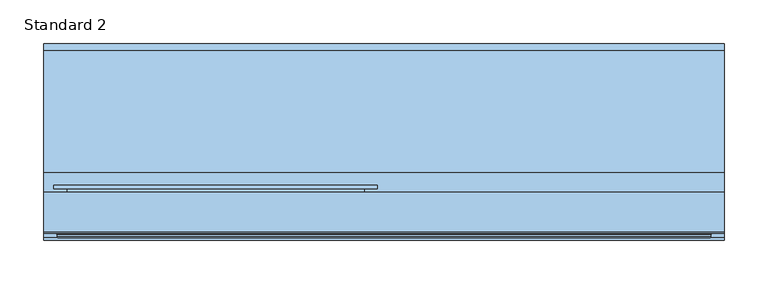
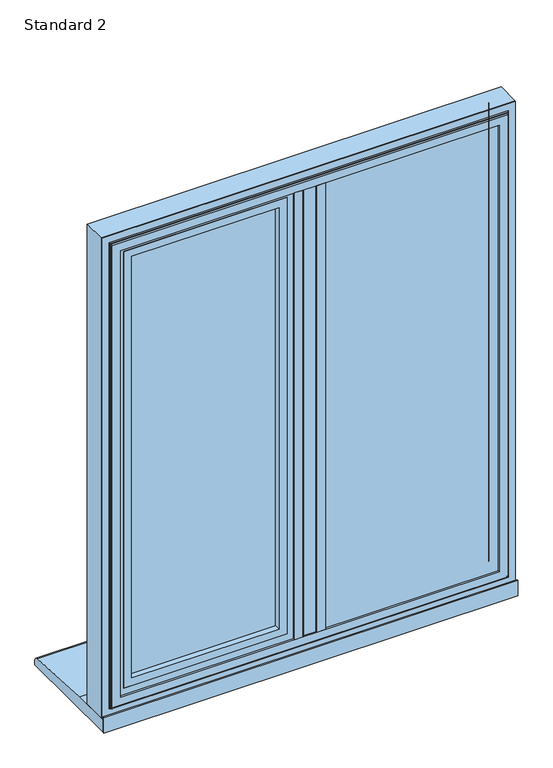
"""IFC4 building model written with IfcOpenShell, lengths in millimetres: window geometry, SMARTS_AlithermHeritage : Standard 2."""

import ifcopenshell
import ifcopenshell.guid

model = None  # the IFC model being written
_history = None  # IfcOwnerHistory: only IFC2X3 demands one
_inside = {}  # id of a spatial element -> (the spatial element, [elements in it])
_under = {}  # id of a project, library or spatial element -> (it, [spatial elements below it])
_declared = {}  # id of a project -> (the project, [libraries it declares])
_typed = {}  # id of a type object -> (the type object, [elements of that type])
_made_of = {}  # id of a material, layer set ... -> (it, [elements and type objects made of it])


def new_model(schema):
    """Start an empty IFC model of exactly this schema.

    Asked for "IFC4X3", IfcOpenShell would pick the latest addendum, in which some entities
    have other attributes; the version numbers below select the first issue.
    IFC2X3 requires an IfcOwnerHistory on every rooted entity: one is made here for all.
    """
    global model, _history
    if schema == "IFC4X3":
        model = ifcopenshell.file(schema_version=(4, 3, 0, 0))
    else:
        model = ifcopenshell.file(schema=schema)
    _inside.clear()
    _under.clear()
    _declared.clear()
    _typed.clear()
    _made_of.clear()
    _history = None
    if model.schema == "IFC2X3":
        org = make("IfcOrganization", Name="unknown")
        user = make(
            "IfcPersonAndOrganization",
            ThePerson=make("IfcPerson", FamilyName="unknown"),
            TheOrganization=org,
        )
        app = make(
            "IfcApplication",
            ApplicationDeveloper=org,
            Version="unknown",
            ApplicationFullName="unknown",
            ApplicationIdentifier="unknown",
        )
        _history = make(
            "IfcOwnerHistory",
            OwningUser=user,
            OwningApplication=app,
            ChangeAction="ADDED",
            CreationDate=0,
        )
    return model


def make(cls, **values):
    """One entity of the class cls with the attributes given. An attribute that is None is left unset."""
    return model.create_entity(
        cls, **{name: value for name, value in values.items() if value is not None}
    )


def rooted(cls, **values):
    """An entity with a GlobalId (a new one), such as an element, a storey or a relation."""
    return make(cls, GlobalId=ifcopenshell.guid.new(), OwnerHistory=_history, **values)


def si_unit(unit_type, name, prefix=None):
    """IfcSIUnit, for example si_unit("LENGTHUNIT", "METRE", prefix="MILLI")."""
    return make("IfcSIUnit", UnitType=unit_type, Prefix=prefix, Name=name)


def assignment(units):
    """IfcUnitAssignment: the units of a project."""
    return None if units is None else make("IfcUnitAssignment", Units=units)


def point(xyz):
    """IfcCartesianPoint."""
    return None if xyz is None else make("IfcCartesianPoint", Coordinates=xyz)


def direction(xyz):
    """IfcDirection."""
    return None if xyz is None else make("IfcDirection", DirectionRatios=xyz)


def frame(location, z_axis=None, x_axis=None):
    """IfcAxis2Placement3D, a coordinate frame: its origin and axes. An axis left out is left unset."""
    return make(
        "IfcAxis2Placement3D",
        Location=point(location),
        Axis=direction(z_axis),
        RefDirection=direction(x_axis),
    )


def frame_2d(location, x_axis=None):
    """IfcAxis2Placement2D, a coordinate frame in the plane: its origin and x axis."""
    return make(
        "IfcAxis2Placement2D", Location=point(location), RefDirection=direction(x_axis)
    )


def origin():
    """The frame at (0, 0, 0) with its axes left unset."""
    return frame((0.0, 0.0, 0.0))


def place(relative_to, where):
    """IfcLocalPlacement: puts the frame where relative to a parent placement (None: the world)."""
    return make(
        "IfcLocalPlacement", PlacementRelTo=relative_to, RelativePlacement=where
    )


def context(
    kind, dimensions, precision=None, world=None, true_north=None, identifier=None
):
    """IfcGeometricRepresentationContext, for example the 3D "Model" context."""
    return make(
        "IfcGeometricRepresentationContext",
        ContextIdentifier=identifier,
        ContextType=kind,
        CoordinateSpaceDimension=dimensions,
        Precision=precision,
        WorldCoordinateSystem=world,
        TrueNorth=true_north,
    )


def project(units=None, contexts=None):
    """IfcProject with its units and contexts."""
    return rooted(
        "IfcProject",
        Name="project",
        RepresentationContexts=contexts,
        UnitsInContext=assignment(units),
    )


def spatial(cls, under=None, at=None, **own):
    """A site, building, storey or space (cls), placed at a placement, below another one or the project."""
    s = rooted(cls, ObjectPlacement=at, **own)
    if under is not None:
        _under.setdefault(under.id(), (under, []))[1].append(s)
    return s


def polyline(points):
    """IfcPolyline through the points."""
    return make("IfcPolyline", Points=[point(p) for p in points])


def circle_curve(where, radius):
    """IfcCircle in the frame where."""
    return make("IfcCircle", Position=where, Radius=radius)


def ellipse_curve(where, semi_axis1, semi_axis2):
    """IfcEllipse in the frame where."""
    return make(
        "IfcEllipse", Position=where, SemiAxis1=semi_axis1, SemiAxis2=semi_axis2
    )


def trimmed(basis, trim1, trim2, sense, master):
    """IfcTrimmedCurve: the piece of a basis curve between two trims."""
    return make(
        "IfcTrimmedCurve",
        BasisCurve=basis,
        Trim1=trim1,
        Trim2=trim2,
        SenseAgreement=sense,
        MasterRepresentation=master,
    )


def segment(curve, same_sense, transition):
    """IfcCompositeCurveSegment."""
    return make(
        "IfcCompositeCurveSegment",
        Transition=transition,
        SameSense=same_sense,
        ParentCurve=curve,
    )


def composite_curve(segments, self_intersect=None):
    """IfcCompositeCurve: segments joined end to end."""
    return make("IfcCompositeCurve", Segments=segments, SelfIntersect=self_intersect)


def outline(outer, holes=None, kind="AREA"):
    """IfcArbitraryClosedProfileDef: a profile drawn as a closed curve; with holes, ...WithVoids."""
    if holes is None:
        return make("IfcArbitraryClosedProfileDef", ProfileType=kind, OuterCurve=outer)
    return make(
        "IfcArbitraryProfileDefWithVoids",
        ProfileType=kind,
        OuterCurve=outer,
        InnerCurves=holes,
    )


def extrude(swept, where, along, depth):
    """IfcExtrudedAreaSolid: the profile swept, set in the frame where, extruded along a direction by depth."""
    return make(
        "IfcExtrudedAreaSolid",
        SweptArea=swept,
        Position=where,
        ExtrudedDirection=direction(along),
        Depth=depth,
    )


def faces_of(points, faces, orient=None, outer=None):
    """IfcFace entities. A face is a list of loops; a loop is a list of indices into points, from 0.

    orient and outer hold one flag for each loop. By default every Orientation is true, the
    first loop of a face is its IfcFaceOuterBound and the others are IfcFaceBound.
    """
    made = []
    for i, loops in enumerate(faces):
        bounds = []
        for j, loop in enumerate(loops):
            is_outer = j == 0 if outer is None else outer[i][j]
            bounds.append(
                make(
                    "IfcFaceOuterBound" if is_outer else "IfcFaceBound",
                    Bound=make("IfcPolyLoop", Polygon=[points[k] for k in loop]),
                    Orientation=True if orient is None else orient[i][j],
                )
            )
        made.append(make("IfcFace", Bounds=bounds))
    return made


def faceted_brep(points, faces, orient=None, outer=None, voids=None):
    """IfcFacetedBrep: a solid bounded by flat faces; with voids (closed shells), ...WithVoids."""
    shared = [point(p) for p in points]
    hull = make("IfcClosedShell", CfsFaces=faces_of(shared, faces, orient, outer))
    if voids is None:
        return make("IfcFacetedBrep", Outer=hull)
    return make(
        "IfcFacetedBrepWithVoids",
        Outer=hull,
        Voids=[
            make(cls, CfsFaces=faces_of(shared, fs, o, b)) for cls, fs, o, b in voids
        ],
    )


def shape(context_of_items, identifier, shape_type, items):
    """IfcShapeRepresentation: the items that make up one representation, for example the "Body"."""
    return make(
        "IfcShapeRepresentation",
        ContextOfItems=context_of_items,
        RepresentationIdentifier=identifier,
        RepresentationType=shape_type,
        Items=items,
    )


def source(mapping_origin, context_of_items, identifier, shape_type, items):
    """IfcRepresentationMap: a shape defined once, which mapped items show again and again."""
    return make(
        "IfcRepresentationMap",
        MappingOrigin=mapping_origin,
        MappedRepresentation=shape(context_of_items, identifier, shape_type, items),
    )


def transform(
    local_origin,
    x_axis=None,
    y_axis=None,
    z_axis=None,
    scale=None,
    scale2=None,
    scale3=None,
    uniform=True,
):
    """IfcCartesianTransformationOperator3D, or its non-uniform kind. x_axis, y_axis, z_axis: its Axis1, 2, 3."""
    if uniform:
        return make(
            "IfcCartesianTransformationOperator3D",
            Axis1=direction(x_axis),
            Axis2=direction(y_axis),
            LocalOrigin=point(local_origin),
            Scale=scale,
            Axis3=direction(z_axis),
        )
    return make(
        "IfcCartesianTransformationOperator3DnonUniform",
        Axis1=direction(x_axis),
        Axis2=direction(y_axis),
        LocalOrigin=point(local_origin),
        Scale=scale,
        Axis3=direction(z_axis),
        Scale2=scale2,
        Scale3=scale3,
    )


def mapped(mapping_source, mapping_target):
    """IfcMappedItem: shows the shape of a source again, moved by a transform."""
    return make(
        "IfcMappedItem", MappingSource=mapping_source, MappingTarget=mapping_target
    )


def made_of(thing, what):
    """Note that an element or type object is made of a material, layer set ...; save() writes the relation."""
    if what is not None:
        _made_of.setdefault(what.id(), (what, []))[1].append(thing)
    return thing


def element(
    cls,
    number,
    at=None,
    inside=None,
    cuts=None,
    type_object=None,
    material=None,
    context=None,
    identifier="Body",
    shape_type=None,
    held_by="IfcProductDefinitionShape",
    body=None,
    shapes=None,
    **own,
):
    """One element of the class cls, such as IfcWall. Its Tag is "e" and its number.

    at: its placement. inside: the storey or other place that contains it. cuts: it is an
    opening in that element (IfcRelVoidsElement). A single representation is given by context,
    identifier, shape_type and body (its items); several are given by shapes. held_by: the class
    of the entity that holds the representations. save() writes the other relations.
    """
    e = rooted(cls, Tag="e%d" % number, ObjectPlacement=at, **own)
    if body is not None:
        shapes = [shape(context, identifier, shape_type, body)]
    if shapes is not None:
        e.Representation = make(held_by, Representations=shapes)
    if inside is not None:
        _inside.setdefault(inside.id(), (inside, []))[1].append(e)
    if cuts is not None:
        rooted(
            "IfcRelVoidsElement", RelatingBuildingElement=cuts, RelatedOpeningElement=e
        )
    if type_object is not None:
        _typed.setdefault(type_object.id(), (type_object, []))[1].append(e)
    return made_of(e, material)


def aggregate(whole, parts):
    """IfcRelAggregates: a whole, such as a stair, and the parts it consists of."""
    return rooted("IfcRelAggregates", RelatingObject=whole, RelatedObjects=parts)


def save(model, path):
    """Write the relations noted so far, then the file.

    IfcRelAggregates (storeys below a building ...), IfcRelContainedInSpatialStructure (elements
    in a storey), IfcRelDefinesByType, IfcRelAssociatesMaterial and IfcRelDeclares: one each for
    every whole, place, type object, material and project.
    """
    for whole, parts in _under.values():
        aggregate(whole, parts)
    for where, things in _inside.values():
        rooted(
            "IfcRelContainedInSpatialStructure",
            RelatedElements=things,
            RelatingStructure=where,
        )
    for kind, things in _typed.values():
        rooted("IfcRelDefinesByType", RelatedObjects=things, RelatingType=kind)
    for what, things in _made_of.values():
        rooted("IfcRelAssociatesMaterial", RelatedObjects=things, RelatingMaterial=what)
    for by, libraries in _declared.values():
        rooted("IfcRelDeclares", RelatingContext=by, RelatedDefinitions=libraries)
    model.write(path)


def plane_surface(at):
    """IfcPlane: the flat surface through the origin of the frame at, square to its z axis."""
    return make("IfcPlane", Position=at)


def cylinder_surface(at, radius):
    """IfcCylindricalSurface: all points at the distance radius from the z axis of the frame at."""
    return make("IfcCylindricalSurface", Position=at, Radius=radius)


def revolved_surface(curve, axis_point, axis_direction):
    """IfcSurfaceOfRevolution: the curve turned about the line through axis_point along axis_direction."""
    return make(
        "IfcSurfaceOfRevolution",
        SweptCurve=make("IfcArbitraryOpenProfileDef", ProfileType="CURVE", Curve=curve),
        AxisPosition=make("IfcAxis1Placement", Location=point(axis_point), Axis=direction(axis_direction)),
    )


def advanced_brep(points, edges, surfaces, faces):
    """IfcAdvancedBrep: a solid bounded by faces that lie on surfaces and meet in shared edges.

    An edge is (start, end): straight between two places in points (the first is 0);
    or (start, end, curve); or (start, end, curve, False) where it runs against its curve.
    A face is (place in surfaces, loops), or (place, loops, False) where it looks against
    its surface's normal. A loop lists edges by number (the first is 1), with a minus sign
    where the edge is run from its end to its start. The first loop is the outer one.
    """
    corners = [point(p) for p in points]
    vertices = [make("IfcVertexPoint", VertexGeometry=c) for c in corners]
    made = []
    for start, end, *more in edges:
        made.append(
            make(
                "IfcEdgeCurve",
                EdgeStart=vertices[start],
                EdgeEnd=vertices[end],
                EdgeGeometry=more[0] if more else make("IfcPolyline", Points=[corners[start], corners[end]]),
                SameSense=more[1] if len(more) > 1 else True,
            )
        )
    hull = []
    for where, loops, *sense in faces:
        bounds = []
        for j, loop in enumerate(loops):
            ring = [make("IfcOrientedEdge", EdgeElement=made[abs(k) - 1], Orientation=k > 0) for k in loop]
            bounds.append(
                make(
                    "IfcFaceOuterBound" if j == 0 else "IfcFaceBound",
                    Bound=make("IfcEdgeLoop", EdgeList=ring),
                    Orientation=True,
                )
            )
        hull.append(make("IfcAdvancedFace", Bounds=bounds, FaceSurface=surfaces[where], SameSense=sense[0] if sense else True))
    return make("IfcAdvancedBrep", Outer=make("IfcClosedShell", CfsFaces=hull))


def standard_2_8d0ce72f(model_context):
    return source(origin(), model_context, "Body", "SolidModel", [
        extrude(outline(polyline([(-13.6941456, 95.2798432), (13.6941456, 95.2798432), (13.6941456, 47.279476), (-13.6941456, 47.279476), (-13.6941456, 95.2798432)])), frame((0.0, 0.0, 652.6941456), z_axis=(0.0, 0.0, 1.0), x_axis=(1.0, 0.0, 0.0)), (0.0, 0.0, 1.0), 919.6117089),
        extrude(outline(composite_curve([segment(polyline([(-29.0, 47.279476), (29.0, 47.279476), (29.0, 43.2798432), (13.0, 43.2798432)]), True, "CONTINUOUS"), segment(trimmed(circle_curve(frame_2d((13.0, 44.2798432)), 1.0), [point((13.0, 43.2798432))], [point((12.0, 44.2798432))], False, "CARTESIAN"), True, "CONTINUOUS"), segment(polyline([(12.0, 44.2798432), (12.0, 45.7798432), (-12.0, 45.7798432), (-12.0, 44.2798432)]), True, "CONTINUOUS"), segment(trimmed(circle_curve(frame_2d((-13.0, 44.2798432)), 1.0), [point((-12.0, 44.2798432))], [point((-13.0, 43.2798432))], False, "CARTESIAN"), True, "CONTINUOUS"), segment(polyline([(-13.0, 43.2798432), (-29.0, 43.2798432), (-29.0, 47.279476)]), True, "CONTINUOUS")], self_intersect=False)), frame((0.0, 0.0, 668.0), z_axis=(0.0, 0.0, 1.0), x_axis=(1.0, 0.0, 0.0)), (0.0, 0.0, 1.0), 889.0),
        extrude(outline(polyline([(-343.5, 89.2798432), (-42.5, 89.2798432), (-42.5, 85.2798432), (-343.5, 85.2798432), (-343.5, 89.2798432)])), frame((0.0, 0.0, 681.5), z_axis=(0.0, 0.0, 1.0), x_axis=(1.0, 0.0, 0.0)), (0.0, 0.0, 1.0), 862.0),
        extrude(outline(polyline([(-343.5, 69.2798432), (-42.5, 69.2798432), (-42.5, 65.2798432), (-343.5, 65.2798432), (-343.5, 69.2798432)])), frame((0.0, 0.0, 681.5), z_axis=(0.0, 0.0, 1.0), x_axis=(1.0, 0.0, 0.0)), (0.0, 0.0, 1.0), 862.0),
        extrude(outline(polyline([(1543.5, -343.5), (681.5, -343.5), (681.5, -42.5), (1543.5, -42.5), (1543.5, -343.5)]), holes=[polyline([(1533.5, -52.5), (691.5, -52.5), (691.5, -333.5), (1533.5, -333.5), (1533.5, -52.5)])]), frame((0.0, 69.2798432, 0.0), z_axis=(0.0, 1.0, 0.0), x_axis=(0.0, 0.0, 1.0)), (0.0, 0.0, 1.0), 16.0),
        extrude(outline(polyline([(1547.0052956, -347.0052956), (677.9947044, -347.0052956), (677.9947044, -38.9947044), (1547.0052956, -38.9947044), (1547.0052956, -347.0052956)]), holes=[polyline([(1532.0, -54.0), (693.0, -54.0), (693.0, -332.0), (1532.0, -332.0), (1532.0, -54.0)])]), frame((0.0, 51.2798432, 0.0), z_axis=(0.0, 1.0, 0.0), x_axis=(0.0, 0.0, 1.0)), (0.0, 0.0, 1.0), 11.3),
        extrude(outline(polyline([(662.3548042, -362.6451958), (662.3548042, -23.3548042), (1562.6451958, -23.3548042), (1562.6451958, -362.6451958), (662.3548042, -362.6451958)]), holes=[polyline([(1547.0, -347.0), (1547.0, -39.0), (678.0, -39.0), (678.0, -347.0), (1547.0, -347.0)])]), frame((0.0, 51.2798432, 0.0), z_axis=(0.0, 1.0, 0.0), x_axis=(0.0, 0.0, 1.0)), (0.0, 0.0, 1.0), 41.6),
        advanced_brep(
        [(-332.0, 98.0798432, 1532.0), (-332.0, 92.8798432, 1532.0), (-332.0, 92.8798432, 693.0), (-332.0, 98.0798432, 693.0), (-54.0, 92.8798432, 693.0), (-54.0, 98.0798432, 693.0), (-54.0, 92.8798432, 1532.0), (-54.0, 98.0798432, 1532.0), (-378.2, 99.2798432, 1578.2), (-378.2, 103.2798432, 1578.2), (-378.2, 103.2798432, 646.8), (-378.2, 99.2798432, 646.8), (-7.8, 103.2798432, 646.8), (-7.8, 99.2798432, 646.8), (-7.8, 103.2798432, 1578.2), (-7.8, 99.2798432, 1578.2), (-363.1467657, 99.2798432, 1563.1467657), (-22.8532343, 99.2798432, 1563.1467657), (-22.8532343, 99.2798432, 661.8532343), (-363.1467657, 99.2798432, 661.8532343), (-349.2, 103.2798432, 675.8), (-36.8, 103.2798432, 675.8), (-36.8, 103.2798432, 1549.2), (-349.2, 103.2798432, 1549.2), (-363.1467657, 92.8798432, 1563.1467657), (-363.1467657, 92.8798432, 661.8532343), (-22.8532343, 92.8798432, 661.8532343), (-22.8532343, 92.8798432, 1563.1467657), (-347.2, 101.2798432, 1547.2), (-347.2, 100.0798432, 1547.2), (-347.2, 100.0798432, 677.8), (-347.2, 101.2798432, 677.8), (-345.2, 98.0798432, 1545.2), (-345.2, 98.0798432, 679.8), (-38.8, 100.0798432, 677.8), (-38.8, 101.2798432, 677.8), (-40.8, 98.0798432, 679.8), (-38.8, 100.0798432, 1547.2), (-38.8, 101.2798432, 1547.2), (-40.8, 98.0798432, 1545.2)],
        [
            (0, 1),
            (1, 2),
            (2, 3),
            (3, 0),
            (2, 4),
            (4, 5),
            (5, 3),
            (4, 6),
            (6, 7),
            (7, 5),
            (6, 1),
            (0, 7),
            (8, 9),
            (9, 10),
            (10, 11),
            (11, 8),
            (10, 12),
            (12, 13),
            (13, 11),
            (12, 14),
            (14, 15),
            (15, 13),
            (15, 8),
            (16, 17),
            (17, 18),
            (18, 19),
            (19, 16),
            (14, 9),
            (20, 21),
            (21, 22),
            (22, 23),
            (23, 20),
            (24, 16),
            (19, 25),
            (25, 24),
            (18, 26),
            (26, 25),
            (17, 27),
            (27, 26),
            (27, 24),
            (28, 29),
            (29, 30),
            (30, 31),
            (31, 28),
            (29, 32, ellipse_curve(frame((-345.2, 100.0798432, 1545.2), z_axis=(0.7071067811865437, 0.0, 0.7071067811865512), x_axis=(0.7071067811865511, 0.0, -0.7071067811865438)), 2.8284271, 2.0)),
            (32, 33),
            (33, 30, ellipse_curve(frame((-345.2, 100.0798432, 679.8), z_axis=(0.7071067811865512, 0.0, -0.7071067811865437), x_axis=(-0.7071067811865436, 0.0, -0.7071067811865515)), 2.8284271, 2.0)),
            (30, 34),
            (34, 35),
            (35, 31),
            (33, 36),
            (36, 34, ellipse_curve(frame((-40.8, 100.0798432, 679.8), z_axis=(0.7071067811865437, 0.0, 0.7071067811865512), x_axis=(0.7071067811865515, 0.0, -0.7071067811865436)), 2.8284271, 2.0)),
            (34, 37),
            (37, 38),
            (38, 35),
            (36, 39),
            (39, 37, ellipse_curve(frame((-40.8, 100.0798432, 1545.2), z_axis=(-0.7071067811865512, 0.0, 0.7071067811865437), x_axis=(0.7071067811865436, 0.0, 0.7071067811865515)), 2.8284271, 2.0)),
            (32, 39),
            (37, 29),
            (28, 38),
            (23, 28, ellipse_curve(frame((-349.2, 101.2798432, 1549.2), z_axis=(-0.7071067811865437, 0.0, -0.7071067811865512), x_axis=(-0.7071067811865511, 0.0, 0.7071067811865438)), 2.8284271, 2.0)),
            (31, 20, ellipse_curve(frame((-349.2, 101.2798432, 675.8), z_axis=(-0.7071067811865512, 0.0, 0.7071067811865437), x_axis=(0.7071067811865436, 0.0, 0.7071067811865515)), 2.8284271, 2.0)),
            (35, 21, ellipse_curve(frame((-36.8, 101.2798432, 675.8), z_axis=(-0.7071067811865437, 0.0, -0.7071067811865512), x_axis=(-0.7071067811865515, 0.0, 0.7071067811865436)), 2.8284271, 2.0)),
            (38, 22, ellipse_curve(frame((-36.8, 101.2798432, 1549.2), z_axis=(0.7071067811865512, 0.0, -0.7071067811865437), x_axis=(-0.7071067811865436, 0.0, -0.7071067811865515)), 2.8284271, 2.0)),
        ],
        [
            plane_surface(frame((-332.0, 92.8798432, 1532.0), z_axis=(1.0, 0.0, 0.0), x_axis=(0.0, 0.0, -1.0))),
            plane_surface(frame((-332.0, 92.8798432, 693.0), z_axis=(0.0, 0.0, 1.0), x_axis=(1.0, 0.0, 0.0))),
            plane_surface(frame((-54.0, 92.8798432, 693.0), z_axis=(-1.0, 0.0, 0.0), x_axis=(0.0, 0.0, 1.0))),
            plane_surface(frame((-54.0, 92.8798432, 1532.0), z_axis=(0.0, 0.0, -1.0), x_axis=(-1.0, 0.0, 0.0))),
            plane_surface(frame((-378.2, 103.2798432, 1578.2), z_axis=(-1.0, 0.0, 0.0), x_axis=(0.0, 0.0, -1.0))),
            plane_surface(frame((-378.2, 103.2798432, 646.8), z_axis=(0.0, 0.0, -1.0), x_axis=(1.0, 0.0, 0.0))),
            plane_surface(frame((-7.8, 103.2798432, 646.8), z_axis=(1.0, 0.0, 0.0), x_axis=(0.0, 0.0, 1.0))),
            plane_surface(frame((-7.8, 99.2798432, 1578.2), z_axis=(0.0, -1.0, 0.0), x_axis=(-1.0, 0.0, 0.0))),
            plane_surface(frame((-7.8, 103.2798432, 1578.2), z_axis=(0.0, 0.0, 1.0), x_axis=(-1.0, 0.0, 0.0))),
            plane_surface(frame((-36.8, 103.2798432, 1549.2), z_axis=(0.0, 1.0, 0.0), x_axis=(-1.0, 0.0, 0.0))),
            plane_surface(frame((-363.1467657, 99.2798432, 1563.1467657), z_axis=(-1.0, 0.0, 0.0), x_axis=(0.0, 0.0, -1.0))),
            plane_surface(frame((-363.1467657, 99.2798432, 661.8532343), z_axis=(0.0, 0.0, -1.0), x_axis=(1.0, 0.0, 0.0))),
            plane_surface(frame((-22.8532343, 99.2798432, 661.8532343), z_axis=(1.0, 0.0, 0.0), x_axis=(0.0, 0.0, 1.0))),
            plane_surface(frame((-22.8532343, 92.8798432, 1563.1467657), z_axis=(0.0, -1.0, 0.0), x_axis=(-1.0, 0.0, 0.0))),
            plane_surface(frame((-22.8532343, 99.2798432, 1563.1467657), z_axis=(0.0, 0.0, 1.0), x_axis=(-1.0, 0.0, 0.0))),
            plane_surface(frame((-347.2, 100.0798432, 1547.2), z_axis=(1.0, 0.0, 0.0), x_axis=(0.0, 0.0, -1.0))),
            revolved_surface(polyline([(-347.2, 100.0798432, 677.8), (-347.2, 100.0798432, 1547.2)]), (-345.2, 100.0798432, 1557.0), (0.0, 0.0, -1.0)),
            plane_surface(frame((-347.2, 100.0798432, 677.8), z_axis=(0.0, 0.0, 1.0), x_axis=(1.0, 0.0, 0.0))),
            revolved_surface(polyline([(-38.80000000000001, 100.0798432, 677.8), (-347.2, 100.0798432, 677.8)]), (-357.0, 100.0798432, 679.8), (1.0, 0.0, 0.0)),
            plane_surface(frame((-38.8, 100.0798432, 677.8), z_axis=(-1.0, 0.0, 0.0), x_axis=(0.0, 0.0, 1.0))),
            revolved_surface(polyline([(-38.8, 100.0798432, 1547.2), (-38.8, 100.0798432, 677.8)]), (-40.8, 100.0798432, 668.0), (0.0, 0.0, 1.0)),
            plane_surface(frame((-54.0, 98.0798432, 1532.0), z_axis=(0.0, 1.0, 0.0), x_axis=(-1.0, 0.0, 0.0))),
            plane_surface(frame((-38.8, 100.0798432, 1547.2), z_axis=(0.0, 0.0, -1.0), x_axis=(-1.0, 0.0, 0.0))),
            revolved_surface(polyline([(-347.2, 100.0798432, 1547.2), (-38.8, 100.0798432, 1547.2)]), (-29.0, 100.0798432, 1545.2), (-1.0, 0.0, 0.0)),
            cylinder_surface(frame((-349.2, 101.2798432, 1557.0), z_axis=(0.0, 0.0, 1.0), x_axis=(-1.0, 0.0, 0.0)), 2.0),
            cylinder_surface(frame((-357.0, 101.2798432, 675.8), z_axis=(-1.0, 0.0, 0.0), x_axis=(0.0, 0.0, -1.0)), 2.0),
            cylinder_surface(frame((-36.8, 101.2798432, 668.0), z_axis=(0.0, 0.0, -1.0), x_axis=(1.0, 0.0, 0.0)), 2.0),
            cylinder_surface(frame((-29.0, 101.2798432, 1549.2), z_axis=(1.0, 0.0, 0.0), x_axis=(0.0, 0.0, 1.0)), 2.0),
        ],
        [
            (0, [[1, 2, 3, 4]]),
            (1, [[-3, 5, 6, 7]]),
            (2, [[-6, 8, 9, 10]]),
            (3, [[-9, 11, -1, 12]]),
            (4, [[13, 14, 15, 16]]),
            (5, [[-15, 17, 18, 19]]),
            (6, [[-18, 20, 21, 22]]),
            (7, [[-19, -22, 23, -16], [24, 25, 26, 27]]),
            (8, [[-21, 28, -13, -23]]),
            (9, [[-28, -20, -17, -14], [29, 30, 31, 32]]),
            (10, [[33, -27, 34, 35]]),
            (11, [[-34, -26, 36, 37]]),
            (12, [[-36, -25, 38, 39]]),
            (13, [[-37, -39, 40, -35], [-11, -8, -5, -2]]),
            (14, [[-38, -24, -33, -40]]),
            (15, [[41, 42, 43, 44]]),
            (16, [[45, 46, 47, -42]]),
            (17, [[-43, 48, 49, 50]]),
            (18, [[-47, 51, 52, -48]]),
            (19, [[-49, 53, 54, 55]]),
            (20, [[-52, 56, 57, -53]]),
            (21, [[58, -56, -51, -46], [-7, -10, -12, -4]]),
            (22, [[-54, 59, -41, 60]]),
            (23, [[-57, -58, -45, -59]]),
            (24, [[61, -44, 62, -32]]),
            (25, [[-62, -50, 63, -29]]),
            (26, [[-63, -55, 64, -30]]),
            (27, [[-64, -60, -61, -31]]),
        ],
    ),
        extrude(outline(polyline([(1590.0, 390.0), (1590.0, -390.0), (635.0, -390.0), (635.0, 390.0), (1590.0, 390.0)]), holes=[polyline([(652.7000182, 372.2999818), (652.7000182, -372.2999818), (1572.2999818, -372.2999818), (1572.2999818, 372.2999818), (652.7000182, 372.2999818)])]), frame((0.0, 50.279857, 0.0), z_axis=(0.0, 1.0, 0.0), x_axis=(0.0, 0.0, 1.0)), (0.0, 0.0, 1.0), 44.9999962),
        advanced_brep(
        [(357.0, 43.2798432, 1557.0), (357.0, 47.2798432, 1557.0), (357.0, 47.2798432, 668.0), (357.0, 43.2798432, 668.0), (390.0, 50.279857, 1590.0), (390.0, 48.279857, 1590.0), (390.0, 48.279857, 635.0), (390.0, 50.279857, 635.0), (372.4999818, 43.2798432, 1572.4999818), (-372.4999818, 43.2798432, 1572.4999818), (-372.4999818, 43.2798432, 652.5000182), (372.4999818, 43.2798432, 652.5000182), (-357.0, 43.2798432, 668.0), (-357.0, 43.2798432, 1557.0), (-390.0, 50.279857, 1590.0), (-390.0, 48.279857, 1590.0), (-390.0, 50.279857, 635.0), (372.2999818, 50.279857, 1572.2999818), (-372.2999818, 50.279857, 1572.2999818), (-372.2999818, 50.279857, 652.7000182), (372.2999818, 50.279857, 652.7000182), (-357.0, 47.2798432, 1557.0), (-357.0, 47.2798432, 668.0), (-390.0, 48.279857, 635.0), (-372.2999818, 47.2798432, 1572.2999818), (372.2999818, 47.2798432, 1572.2999818), (372.2999818, 47.2798432, 652.7000182), (374.4999818, 46.779857, 650.5000182), (374.4999818, 45.2798432, 650.5000182), (-374.4999818, 45.2798432, 650.5000182), (-374.4999818, 46.779857, 650.5000182), (374.4999818, 46.779857, 1574.4999818), (374.4999818, 45.2798432, 1574.4999818), (-372.2999818, 47.2798432, 652.7000182), (-374.4999818, 45.2798432, 1574.4999818), (-374.4999818, 46.779857, 1574.4999818), (375.9999818, 48.279857, 1575.9999818), (375.9999818, 48.279857, 649.0000182), (-375.9999818, 48.279857, 649.0000182), (-375.9999818, 48.279857, 1575.9999818)],
        [
            (0, 1),
            (1, 2),
            (2, 3),
            (3, 0),
            (4, 5),
            (5, 6),
            (6, 7),
            (7, 4),
            (8, 9),
            (9, 10),
            (10, 11),
            (11, 8),
            (3, 12),
            (12, 13),
            (13, 0),
            (14, 15),
            (15, 5),
            (4, 14),
            (7, 16),
            (16, 14),
            (17, 18),
            (18, 19),
            (19, 20),
            (20, 17),
            (13, 21),
            (21, 1),
            (2, 22),
            (22, 12),
            (22, 21),
            (6, 23),
            (23, 16),
            (23, 15),
            (24, 18),
            (17, 25),
            (25, 24),
            (20, 26),
            (26, 25),
            (27, 28),
            (28, 29),
            (29, 30),
            (30, 27),
            (31, 32),
            (32, 28),
            (27, 31),
            (19, 33),
            (33, 26),
            (24, 33),
            (29, 34),
            (34, 35),
            (35, 30),
            (34, 32),
            (31, 35),
            (36, 31, ellipse_curve(frame((375.9999818, 46.779857, 1575.9999818), z_axis=(-0.7071067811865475, 0.0, 0.7071067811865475), x_axis=(-0.7071067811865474, 0.0, -0.7071067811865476)), 2.1213203, 1.5)),
            (27, 37, ellipse_curve(frame((375.9999818, 46.779857, 649.0000182), z_axis=(-0.7071067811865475, 0.0, -0.7071067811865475), x_axis=(0.7071067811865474, 0.0, -0.7071067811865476)), 2.1213203, 1.5)),
            (37, 36),
            (30, 38, ellipse_curve(frame((-375.9999818, 46.779857, 649.0000182), z_axis=(-0.7071067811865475, 0.0, 0.7071067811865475), x_axis=(-0.7071067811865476, 0.0, -0.7071067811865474)), 2.1213203, 1.5)),
            (38, 37),
            (35, 39, ellipse_curve(frame((-375.9999818, 46.779857, 1575.9999818), z_axis=(0.7071067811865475, 0.0, 0.7071067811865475), x_axis=(-0.7071067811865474, 0.0, 0.7071067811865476)), 2.1213203, 1.5)),
            (39, 38),
            (36, 39),
            (32, 8, ellipse_curve(frame((372.4999818, 45.2798432, 1572.4999818), z_axis=(0.7071067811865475, 0.0, -0.7071067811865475), x_axis=(0.7071067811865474, 0.0, 0.7071067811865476)), 2.8284271, 2.0)),
            (11, 28, ellipse_curve(frame((372.4999818, 45.2798432, 652.5000182), z_axis=(0.7071067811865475, 0.0, 0.7071067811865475), x_axis=(-0.7071067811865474, 0.0, 0.7071067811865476)), 2.8284271, 2.0)),
            (10, 29, ellipse_curve(frame((-372.4999818, 45.2798432, 652.5000182), z_axis=(0.7071067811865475, 0.0, -0.7071067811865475), x_axis=(0.7071067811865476, 0.0, 0.7071067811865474)), 2.8284271, 2.0)),
            (9, 34, ellipse_curve(frame((-372.4999818, 45.2798432, 1572.4999818), z_axis=(-0.7071067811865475, 0.0, -0.7071067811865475), x_axis=(0.7071067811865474, 0.0, -0.7071067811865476)), 2.8284271, 2.0)),
        ],
        [
            plane_surface(frame((357.0, 47.2798432, 1557.0), z_axis=(-1.0, 0.0, 0.0), x_axis=(0.0, 0.0, -1.0))),
            plane_surface(frame((390.0, 48.279857, 1590.0), z_axis=(1.0, 0.0, 0.0), x_axis=(0.0, 0.0, -1.0))),
            plane_surface(frame((-357.0, 43.2798432, 1557.0), z_axis=(0.0, -1.0, 0.0), x_axis=(1.0, 0.0, 0.0))),
            plane_surface(frame((-390.0, 48.279857, 1590.0), z_axis=(0.0, 0.0, 1.0), x_axis=(1.0, 0.0, 0.0))),
            plane_surface(frame((-390.0, 50.279857, 1590.0), z_axis=(0.0, 1.0, 0.0), x_axis=(1.0, 0.0, 0.0))),
            plane_surface(frame((-357.0, 47.2798432, 1557.0), z_axis=(0.0, 0.0, -1.0), x_axis=(1.0, 0.0, 0.0))),
            plane_surface(frame((357.0, 47.2798432, 668.0), z_axis=(0.0, 0.0, 1.0), x_axis=(-1.0, 0.0, 0.0))),
            plane_surface(frame((-357.0, 47.2798432, 668.0), z_axis=(1.0, 0.0, 0.0), x_axis=(0.0, 0.0, 1.0))),
            plane_surface(frame((390.0, 48.279857, 635.0), z_axis=(0.0, 0.0, -1.0), x_axis=(-1.0, 0.0, 0.0))),
            plane_surface(frame((-390.0, 48.279857, 635.0), z_axis=(-1.0, 0.0, 0.0), x_axis=(0.0, 0.0, 1.0))),
            plane_surface(frame((-372.2999818, 50.279857, 1572.2999818), z_axis=(0.0, 0.0, -1.0), x_axis=(1.0, 0.0, 0.0))),
            plane_surface(frame((372.2999818, 50.279857, 1572.2999818), z_axis=(-1.0, 0.0, 0.0), x_axis=(0.0, 0.0, -1.0))),
            plane_surface(frame((374.4999818, 45.2798432, 650.5000182), z_axis=(0.0, 0.0, -1.0), x_axis=(-1.0, 0.0, 0.0))),
            plane_surface(frame((374.4999818, 45.2798432, 1574.4999818), z_axis=(1.0, 0.0, 0.0), x_axis=(0.0, 0.0, -1.0))),
            plane_surface(frame((372.2999818, 50.279857, 652.7000182), z_axis=(0.0, 0.0, 1.0), x_axis=(-1.0, 0.0, 0.0))),
            plane_surface(frame((-372.2999818, 50.279857, 652.7000182), z_axis=(1.0, 0.0, 0.0), x_axis=(0.0, 0.0, 1.0))),
            plane_surface(frame((-374.4999818, 45.2798432, 650.5000182), z_axis=(-1.0, 0.0, 0.0), x_axis=(0.0, 0.0, 1.0))),
            plane_surface(frame((-372.2999818, 47.2798432, 1572.2999818), z_axis=(0.0, 1.0, 0.0), x_axis=(1.0, 0.0, 0.0))),
            plane_surface(frame((-374.4999818, 45.2798432, 1574.4999818), z_axis=(0.0, 0.0, 1.0), x_axis=(1.0, 0.0, 0.0))),
            revolved_surface(polyline([(374.4999818, 46.779857, 647.5000182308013), (374.4999818, 46.779857, 1577.4999817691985)]), (375.9999818, 46.779857, 1590.0), (0.0, 0.0, -1.0)),
            revolved_surface(polyline([(-377.4999817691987, 46.779857, 650.5000182), (377.49998176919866, 46.779857, 650.5000182)]), (390.0, 46.779857, 649.0000182), (-1.0, 0.0, 0.0)),
            revolved_surface(polyline([(-374.4999818, 46.779857, 1577.4999817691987), (-374.4999818, 46.779857, 647.5000182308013)]), (-375.9999818, 46.779857, 635.0), (0.0, 0.0, 1.0)),
            revolved_surface(polyline([(377.4999817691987, 46.779857, 1574.4999818), (-377.49998176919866, 46.779857, 1574.4999818)]), (-390.0, 46.779857, 1575.9999818), (1.0, 0.0, 0.0)),
            plane_surface(frame((-375.9999818, 48.279857, 1575.9999818), z_axis=(0.0, -1.0, 0.0), x_axis=(1.0, 0.0, 0.0))),
            cylinder_surface(frame((372.4999818, 45.2798432, 1590.0), z_axis=(0.0, 0.0, 1.0), x_axis=(-1.0, 0.0, 0.0)), 2.0),
            cylinder_surface(frame((390.0, 45.2798432, 652.5000182), z_axis=(1.0, 0.0, 0.0), x_axis=(0.0, 0.0, 1.0)), 2.0),
            cylinder_surface(frame((-372.4999818, 45.2798432, 635.0), z_axis=(0.0, 0.0, -1.0), x_axis=(1.0, 0.0, 0.0)), 2.0),
            cylinder_surface(frame((-390.0, 45.2798432, 1572.4999818), z_axis=(-1.0, 0.0, 0.0), x_axis=(0.0, 0.0, -1.0)), 2.0),
        ],
        [
            (0, [[1, 2, 3, 4]]),
            (1, [[5, 6, 7, 8]]),
            (2, [[9, 10, 11, 12], [13, 14, 15, -4]]),
            (3, [[16, 17, -5, 18]]),
            (4, [[19, 20, -18, -8], [21, 22, 23, 24]]),
            (5, [[25, 26, -1, -15]]),
            (6, [[-3, 27, 28, -13]]),
            (7, [[-28, 29, -25, -14]]),
            (8, [[-7, 30, 31, -19]]),
            (9, [[-31, 32, -16, -20]]),
            (10, [[33, -21, 34, 35]]),
            (11, [[-34, -24, 36, 37]]),
            (12, [[38, 39, 40, 41]]),
            (13, [[42, 43, -38, 44]]),
            (14, [[-36, -23, 45, 46]]),
            (15, [[-45, -22, -33, 47]]),
            (16, [[-40, 48, 49, 50]]),
            (17, [[-46, -47, -35, -37], [-26, -29, -27, -2]]),
            (18, [[-49, 51, -42, 52]]),
            (19, [[53, -44, 54, 55]]),
            (20, [[-54, -41, 56, 57]]),
            (21, [[-56, -50, 58, 59]]),
            (22, [[-58, -52, -53, 60]]),
            (23, [[-17, -32, -30, -6], [-57, -59, -60, -55]]),
            (24, [[61, -12, 62, -43]]),
            (25, [[-62, -11, 63, -39]]),
            (26, [[-63, -10, 64, -48]]),
            (27, [[-64, -9, -61, -51]]),
        ],
    ),
        extrude(outline(polyline([(19.0, 75.2798432), (367.0, 75.2798432), (367.0, 71.2798432), (19.0, 71.2798432), (19.0, 75.2798432)])), frame((0.0, 0.0, 658.0), z_axis=(0.0, 0.0, 1.0), x_axis=(1.0, 0.0, 0.0)), (0.0, 0.0, 1.0), 909.0),
        extrude(outline(polyline([(19.0, 55.2798432), (367.0, 55.2798432), (367.0, 51.2798432), (19.0, 51.2798432), (19.0, 55.2798432)])), frame((0.0, 0.0, 658.0), z_axis=(0.0, 0.0, 1.0), x_axis=(1.0, 0.0, 0.0)), (0.0, 0.0, 1.0), 909.0),
        extrude(outline(polyline([(1567.0, 19.0), (658.0, 19.0), (658.0, 367.0), (1567.0, 367.0), (1567.0, 19.0)]), holes=[polyline([(1557.0, 357.0), (668.0, 357.0), (668.0, 29.0), (1557.0, 29.0), (1557.0, 357.0)])]), frame((0.0, 55.2798432, 0.0), z_axis=(0.0, 1.0, 0.0), x_axis=(0.0, 0.0, 1.0)), (0.0, 0.0, 1.0), 16.0),
        faceted_brep([(366.8148849, 95.2798432, 1566.8148849), (357.0, 78.2798098, 1557.0), (29.0, 78.2798098, 1557.0), (19.1851151, 95.2798432, 1566.8148849), (372.3702676, 78.2798098, 1572.3702676), (372.3702676, 95.2798432, 1572.3702676), (13.6297324, 95.2798432, 1572.3702676), (13.6297324, 78.2798098, 1572.3702676), (13.6297324, 78.2798098, 652.6297324), (13.6297324, 95.2798432, 652.6297324), (372.3702676, 95.2798432, 652.6297324), (372.3702676, 78.2798098, 652.6297324), (19.1851151, 95.2798432, 658.1851151), (366.8148849, 95.2798432, 658.1851151), (357.0, 78.2798098, 668.0), (29.0, 78.2798098, 668.0)], [[[0, 1, 2, 3]], [[4, 5, 6, 7]], [[8, 9, 10, 11]], [[5, 10, 9, 6], [3, 12, 13, 0]], [[7, 8, 11, 4], [1, 14, 15, 2]], [[3, 2, 15, 12]], [[7, 6, 9, 8]], [[12, 15, 14, 13]], [[13, 14, 1, 0]], [[11, 10, 5, 4]]]),
        extrude(outline(polyline([(390.0, 43.2798432), (390.0, 40.7798432), (-390.0, 40.7798432), (-390.0, 43.2798432), (390.0, 43.2798432)])), frame((0.0, 0.0, 610.0), z_axis=(0.0, 0.0, 1.0), x_axis=(1.0, 0.0, 0.0)), (0.0, 0.0, 1.0), 31.0),
        extrude(outline(composite_curve([segment(polyline([(265.7798432, 610.0), (43.2798432, 610.0), (43.2798432, 635.0), (118.7798432, 635.0), (258.4770891, 625.9276664)]), True, "CONTINUOUS"), segment(trimmed(circle_curve(frame_2d((257.7798432, 617.9581088)), 8.0), [point((258.4770891, 625.9276664))], [point((265.7798432, 617.9581088))], False, "CARTESIAN"), True, "CONTINUOUS"), segment(polyline([(265.7798432, 617.9581088), (265.7798432, 610.0)]), True, "CONTINUOUS")], self_intersect=False)), frame((-390.0, 0.0, 0.0), z_axis=(1.0, 0.0, 0.0), x_axis=(0.0, 1.0, 0.0)), (0.0, 0.0, 1.0), 780.0),
    ])


if __name__ == "__main__":
    model = new_model("IFC4")
    model_context = context("Model", 3, world=origin())
    ifc_project = project(units=[si_unit("LENGTHUNIT", "METRE", prefix="MILLI")], contexts=[model_context])
    site = spatial("IfcSite", under=ifc_project)
    building = spatial("IfcBuilding", under=site)
    placement = place(None, origin())
    standard_2_shape = standard_2_8d0ce72f(model_context)
    element("IfcWindow", 1, ObjectType="SMARTS_AlithermHeritage : Standard 2", at=placement, inside=building, context=model_context, shape_type="MappedRepresentation", body=[
        mapped(standard_2_shape, transform((0.0, 0.0, 0.0), x_axis=(1.0, 0.0, 0.0), y_axis=(0.0, 1.0, 0.0), z_axis=(0.0, 0.0, 1.0))),
    ])
    save(model, "model.ifc")
